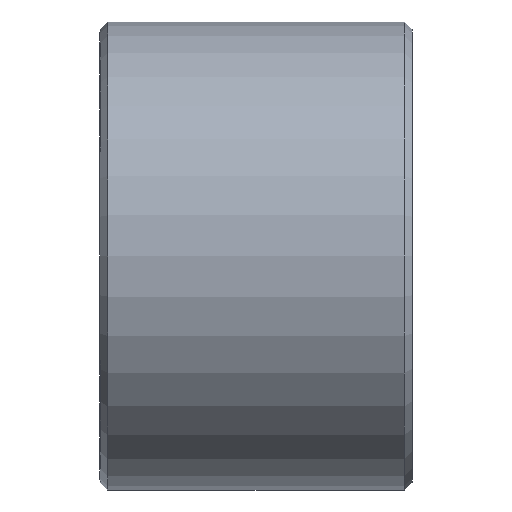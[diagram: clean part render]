
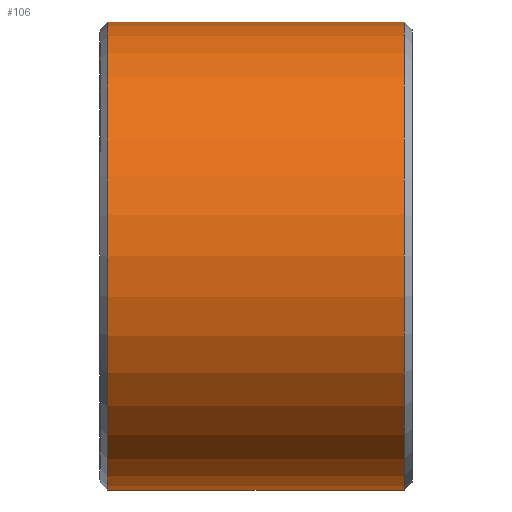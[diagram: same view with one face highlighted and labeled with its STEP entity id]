
A CAD part, left-side view. The second image highlights one B-rep face of the part: STEP entity #106.
In plain terms, the highlighted cylindrical face has radius 15 mm (diameter 30 mm), a partial arc.
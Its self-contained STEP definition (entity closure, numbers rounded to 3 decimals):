
#106 = ADVANCED_FACE ( 'NONE', ( #1116 ), #1317, .T. ) ;
#124 = DIRECTION ( 'NONE',  ( 0., 1., 0. ) ) ;
#242 = LINE ( 'NONE', #741, #674 ) ;
#308 = DIRECTION ( 'NONE',  ( 0., 0., 1. ) ) ;
#335 = DIRECTION ( 'NONE',  ( 0., 1., 0. ) ) ;
#345 = VERTEX_POINT ( 'NONE', #555 ) ;
#396 = ORIENTED_EDGE ( 'NONE', *, *, #701, .F. ) ;
#435 = CARTESIAN_POINT ( 'NONE',  ( 0., 1., 0. ) ) ;
#513 = CARTESIAN_POINT ( 'NONE',  ( 0., 65.513, -15. ) ) ;
#555 = CARTESIAN_POINT ( 'NONE',  ( 0., -18., -15. ) ) ;
#568 = CARTESIAN_POINT ( 'NONE',  ( 0., 1., 15. ) ) ;
#615 = EDGE_LOOP ( 'NONE', ( #396, #703, #1194, #1207 ) ) ;
#636 = CARTESIAN_POINT ( 'NONE',  ( 0., -18., 15. ) ) ;
#674 = VECTOR ( 'NONE', #124, 1000. ) ;
#701 = EDGE_CURVE ( 'NONE', #345, #813, #1044, .T. ) ;
#703 = ORIENTED_EDGE ( 'NONE', *, *, #1167, .T. ) ;
#741 = CARTESIAN_POINT ( 'NONE',  ( 0., 65.513, 15. ) ) ;
#756 = CARTESIAN_POINT ( 'NONE',  ( 0., -18., 0. ) ) ;
#777 = AXIS2_PLACEMENT_3D ( 'NONE', #435, #931, #308 ) ;
#793 = AXIS2_PLACEMENT_3D ( 'NONE', #1014, #812, #1349 ) ;
#812 = DIRECTION ( 'NONE',  ( 0., 1., 0. ) ) ;
#813 = VERTEX_POINT ( 'NONE', #1267 ) ;
#835 = AXIS2_PLACEMENT_3D ( 'NONE', #756, #335, #1060 ) ;
#931 = DIRECTION ( 'NONE',  ( 0., -1., 0. ) ) ;
#979 = EDGE_CURVE ( 'NONE', #1368, #1174, #242, .T. ) ;
#994 = CIRCLE ( 'NONE', #835, 15. ) ;
#1014 = CARTESIAN_POINT ( 'NONE',  ( 0., 65.513, 0. ) ) ;
#1044 = LINE ( 'NONE', #513, #1350 ) ;
#1051 = EDGE_CURVE ( 'NONE', #1174, #813, #1330, .T. ) ;
#1060 = DIRECTION ( 'NONE',  ( 0., 0., -1. ) ) ;
#1116 = FACE_OUTER_BOUND ( 'NONE', #615, .T. ) ;
#1167 = EDGE_CURVE ( 'NONE', #345, #1368, #994, .T. ) ;
#1174 = VERTEX_POINT ( 'NONE', #568 ) ;
#1194 = ORIENTED_EDGE ( 'NONE', *, *, #979, .T. ) ;
#1207 = ORIENTED_EDGE ( 'NONE', *, *, #1051, .T. ) ;
#1253 = DIRECTION ( 'NONE',  ( 0., 1., 0. ) ) ;
#1267 = CARTESIAN_POINT ( 'NONE',  ( 0., 1., -15. ) ) ;
#1317 = CYLINDRICAL_SURFACE ( 'NONE', #793, 15. ) ;
#1330 = CIRCLE ( 'NONE', #777, 15. ) ;
#1349 = DIRECTION ( 'NONE',  ( 0., 0., 1. ) ) ;
#1350 = VECTOR ( 'NONE', #1253, 1000. ) ;
#1368 = VERTEX_POINT ( 'NONE', #636 ) ;
